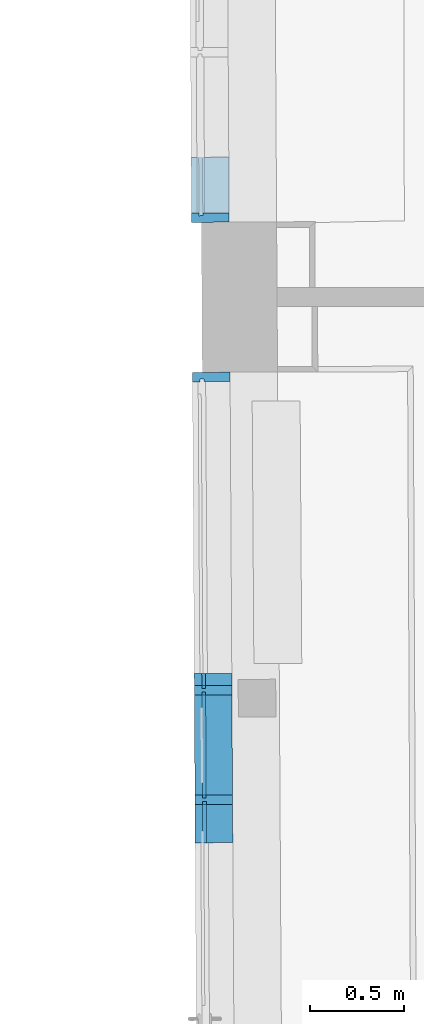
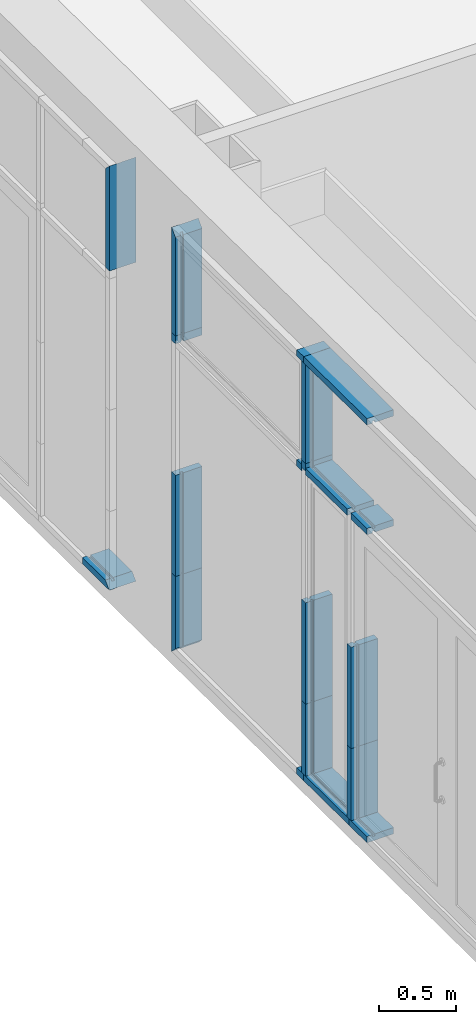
# One storey, part 152 of 196: 20 building element parts, 2 elements without a shape of their own.
"""IFC2X3 building model written with IfcOpenShell, lengths in metres."""

from ifc_helpers import new_model, entity, si_unit, converted_unit, derived_unit, money_unit, direction, frame, origin_with_axes, place, context, subcontext, project, spatial, faceted_brep, material, type_object, element, aggregate, save


model = new_model("IFC2X3")

# Units and contexts
model_context = context("Model", 3, precision=1e-05, world=origin_with_axes(), true_north=direction((0.0, 1.0)))
body_context = subcontext(model_context, "Body", "Model", "MODEL_VIEW")
ifc_project = project(units=[si_unit("LENGTHUNIT", "METRE"), si_unit("AREAUNIT", "SQUARE_METRE"), si_unit("VOLUMEUNIT", "CUBIC_METRE"), converted_unit("PLANEANGLEUNIT", "DEGREE", entity("IfcPlaneAngleMeasure", 0.0174532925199), si_unit("PLANEANGLEUNIT", "RADIAN"), dimensions=[0, 0, 0, 0, 0, 0, 0]), money_unit("EUR"), converted_unit("TIMEUNIT", "Year", entity("IfcTimeMeasure", 31556926.0), si_unit("TIMEUNIT", "SECOND"), dimensions=[0, 0, 1, 0, 0, 0, 0]), si_unit("MASSUNIT", "GRAM", prefix="KILO"), si_unit("THERMODYNAMICTEMPERATUREUNIT", "DEGREE_CELSIUS"), si_unit("LUMINOUSINTENSITYUNIT", "LUMEN"), si_unit("ENERGYUNIT", "JOULE", prefix="MEGA"), derived_unit("THERMALCONDUCTANCEUNIT", [(si_unit("POWERUNIT", "WATT"), 1), (si_unit("LENGTHUNIT", "METRE"), -1), (si_unit("THERMODYNAMICTEMPERATUREUNIT", "KELVIN"), -1)]), derived_unit("SPECIFICHEATCAPACITYUNIT", [(si_unit("ENERGYUNIT", "JOULE"), 1), (si_unit("MASSUNIT", "GRAM", prefix="KILO"), -1), (si_unit("THERMODYNAMICTEMPERATUREUNIT", "KELVIN"), -1)]), derived_unit("MASSDENSITYUNIT", [(si_unit("MASSUNIT", "GRAM", prefix="KILO"), 1), (si_unit("VOLUMEUNIT", "CUBIC_METRE"), -1)])], contexts=[model_context])

# Site, building, storey
site_placement = place(None, origin_with_axes())
site = spatial("IfcSite", under=ifc_project, at=site_placement, Name="Gelände", CompositionType="ELEMENT")
building_placement = place(site_placement, origin_with_axes())
building = spatial("IfcBuilding", under=site, at=building_placement, Name="Gebäude", CompositionType="ELEMENT")
storey_placement = place(building_placement, frame((0.0, 0.0, -3.0), z_axis=(0.0, 0.0, 1.0), x_axis=(1.0, 0.0, 0.0)))
storey = spatial("IfcBuildingStorey", under=building, at=storey_placement, Name="KELLERGESCHOSS", CompositionType="ELEMENT", Elevation=-3.0)

# Proxy, building element parts
building_element_proxy_type = type_object("IfcBuildingElementProxyType", Name="Fassadentyp", PredefinedType="NOTDEFINED")
proxy_1_placement = place(storey_placement, frame((-34.913387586, 47.2552574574, 0.421025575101), z_axis=(0.0, 0.0, 1.0), x_axis=(1.0, 0.0, 0.0)))
proxy_1 = element("IfcBuildingElementProxy", 1, at=proxy_1_placement, inside=storey, type_object=building_element_proxy_type, Name="Fassade-002")
ifc_material = material(Name="53_Metall, Aluminium")
building_element_part_1_placement = place(proxy_1_placement, origin_with_axes())
building_element_part_1 = element("IfcBuildingElementPart", 2, at=building_element_part_1_placement, material=ifc_material, Name="53_Metall, Aluminium", context=body_context, shape_type="Brep", body=[
    faceted_brep([(0.0204320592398, -1.77872243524, 0.0349999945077), (0.000432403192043, -1.77883972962, 0.0349999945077), (0.000344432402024, -1.76383998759, 0.0499999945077), (-0.0396548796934, -1.76407457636, 0.0499999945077), (-0.0393616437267, -1.81407371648, -5.49228174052e-09), (0.16063491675, -1.81290077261, -5.49228174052e-09), (0.160341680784, -1.76290163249, 0.0499999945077), (0.0203440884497, -1.7637226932, 0.0499999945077), (0.0186086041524, -1.46780837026, 0.0349999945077), (-0.00139105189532, -1.46792566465, 0.0349999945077), (-0.00139105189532, -1.46792566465, 0.0499999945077), (-0.0413903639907, -1.46816025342, 0.0499999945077), (-0.0413903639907, -1.46816025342, -5.49228174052e-09), (0.158606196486, -1.46698730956, -5.49228174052e-09), (0.158606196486, -1.46698730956, 0.0499999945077), (0.0186086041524, -1.46780837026, 0.0499999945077)], [[[0, 1, 2, 3, 4, 5, 6, 7]], [[1, 0, 8, 9]], [[10, 2, 1, 9]], [[2, 10, 11, 3]], [[12, 4, 3, 11]], [[13, 5, 4, 12]], [[14, 6, 5, 13]], [[15, 7, 6, 14]], [[0, 7, 15, 8]], [[8, 15, 14, 13, 12, 11, 10, 9]]]),
])
building_element_part_2_placement = place(proxy_1_placement, origin_with_axes())
building_element_part_2 = element("IfcBuildingElementPart", 3, at=building_element_part_2_placement, material=ifc_material, Name="53_Metall, Aluminium", context=body_context, shape_type="Brep", body=[
    faceted_brep([(0.0204320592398, -1.77872243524, 3.31499994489), (0.000432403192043, -1.77883972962, 3.31499994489), (0.000344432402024, -1.76383998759, 3.29999994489), (-0.0396548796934, -1.76407457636, 3.29999994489), (-0.0393616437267, -1.81407371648, 3.34999994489), (0.16063491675, -1.81290077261, 3.34999994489), (0.160341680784, -1.76290163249, 3.29999994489), (0.0203440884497, -1.7637226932, 3.29999994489), (0.0204320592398, -1.77872243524, 2.52000003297), (0.000432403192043, -1.77883972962, 2.52000003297), (0.000344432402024, -1.76383998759, 2.52000003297), (-0.0396548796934, -1.76407457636, 2.52000003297), (-0.0393616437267, -1.81407371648, 2.52000003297), (0.16063491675, -1.81290077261, 2.52000003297), (0.160341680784, -1.76290163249, 2.52000003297), (0.0203440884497, -1.7637226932, 2.52000003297)], [[[0, 1, 2, 3, 4, 5, 6, 7]], [[1, 0, 8, 9]], [[10, 2, 1, 9]], [[2, 10, 11, 3]], [[12, 4, 3, 11]], [[13, 5, 4, 12]], [[14, 6, 5, 13]], [[15, 7, 6, 14]], [[0, 7, 15, 8]], [[8, 15, 14, 13, 12, 11, 10, 9]]]),
])
aggregate(proxy_1, [building_element_part_1, building_element_part_2])

proxy_2_placement = place(storey_placement, frame((-34.8766751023, 40.9954775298, 0.421025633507), z_axis=(0.0, 0.0, 1.0), x_axis=(1.0, 0.0, 0.0)))
proxy_2 = element("IfcBuildingElementProxy", 4, at=proxy_2_placement, inside=storey, type_object=building_element_proxy_type, Name="Fassade-002")
building_element_part_3_placement = place(proxy_2_placement, origin_with_axes())
building_element_part_3 = element("IfcBuildingElementPart", 5, at=building_element_part_3_placement, material=ifc_material, Name="53_Metall, Aluminium", context=body_context, shape_type="Brep", body=[
    faceted_brep([(0.00179706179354, 1.39869764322, 2.44764331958), (0.00179706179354, 1.39869764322, 2.43264331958), (0.14179465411, 1.39951870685, 2.43264331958), (0.14179465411, 1.39951870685, 2.48264331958), (0.00179706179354, 1.39869764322, 2.48264331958), (0.00179706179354, 1.39869764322, 2.46764331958), (-0.0182025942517, 1.39858034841, 2.46764331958), (-0.0182025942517, 1.39858034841, 2.48264331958), (-0.0582019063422, 1.3983457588, 2.48264331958), (-0.0582019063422, 1.3983457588, 2.43264331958), (-0.0182025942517, 1.39858034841, 2.43264331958), (-0.0182025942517, 1.39858034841, 2.44764331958), (-0.00132408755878, 1.93087923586, 2.44764331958), (-0.00132408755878, 1.93087923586, 2.43264331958), (0.138673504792, 1.93170029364, 2.43264331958), (0.138673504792, 1.93170029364, 2.48264331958), (-0.00132408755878, 1.93087923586, 2.48264331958), (-0.00132408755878, 1.93087923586, 2.46764331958), (-0.0213237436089, 1.93076194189, 2.46764331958), (-0.0213237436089, 1.93076194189, 2.48264331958), (-0.0613230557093, 1.93052735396, 2.48264331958), (-0.0613230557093, 1.93052735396, 2.43264331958), (-0.0213237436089, 1.93076194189, 2.43264331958), (-0.0213237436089, 1.93076194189, 2.44764331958)], [[[0, 1, 2, 3, 4, 5, 6, 7, 8, 9, 10, 11]], [[1, 0, 12, 13]], [[1, 13, 14, 2]], [[2, 14, 15, 3]], [[4, 3, 15, 16]], [[4, 16, 17, 5]], [[5, 17, 18, 6]], [[7, 6, 18, 19]], [[19, 20, 8, 7]], [[8, 20, 21, 9]], [[22, 10, 9, 21]], [[11, 10, 22, 23]], [[0, 11, 23, 12]], [[23, 22, 21, 20, 19, 18, 17, 16, 15, 14, 13, 12]]]),
])
building_element_part_4_placement = place(proxy_2_placement, origin_with_axes())
building_element_part_4 = element("IfcBuildingElementPart", 6, at=building_element_part_4_placement, material=ifc_material, Name="53_Metall, Aluminium", context=body_context, shape_type="Brep", body=[
    faceted_brep([(0.00328616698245, 1.14479298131, 0.034999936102), (-0.0167134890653, 1.14467568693, 0.034999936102), (-0.0167134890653, 1.14467568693, 0.049999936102), (-0.0567128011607, 1.14444109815, 0.049999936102), (-0.0567128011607, 1.14444109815, -6.38979704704e-08), (0.143283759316, 1.14561404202, -6.38979704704e-08), (0.143283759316, 1.14561404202, 0.049999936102), (0.00328616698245, 1.14479298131, 0.049999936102), (0.00194367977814, 1.37369807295, 0.034999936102), (-0.0180559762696, 1.37358077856, 0.034999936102), (-0.0180559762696, 1.37358077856, 0.049999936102), (-0.058055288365, 1.37334618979, 0.049999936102), (-0.058055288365, 1.37334618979, -6.38979704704e-08), (0.141941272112, 1.37451913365, -6.38979704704e-08), (0.141941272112, 1.37451913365, 0.049999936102), (0.00194367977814, 1.37369807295, 0.049999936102)], [[[0, 1, 2, 3, 4, 5, 6, 7]], [[1, 0, 8, 9]], [[10, 2, 1, 9]], [[2, 10, 11, 3]], [[12, 4, 3, 11]], [[13, 5, 4, 12]], [[14, 6, 5, 13]], [[15, 7, 6, 14]], [[0, 7, 15, 8]], [[8, 15, 14, 13, 12, 11, 10, 9]]]),
])
building_element_part_5_placement = place(proxy_2_placement, origin_with_axes())
building_element_part_5 = element("IfcBuildingElementPart", 7, at=building_element_part_5_placement, material=ifc_material, Name="53_Metall, Aluminium", context=body_context, shape_type="Brep", body=[
    faceted_brep([(0.00200232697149, 1.36369824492, 1.41999997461), (0.00209029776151, 1.34869850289, 1.41999997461), (0.142087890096, 1.34951956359, 1.41999997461), (0.141794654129, 1.39951870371, 1.41999997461), (0.00179706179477, 1.39869764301, 1.41999997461), (0.00188503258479, 1.38369790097, 1.41999997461), (-0.0181146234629, 1.38358060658, 1.41999997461), (-0.0182025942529, 1.39858034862, 1.41999997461), (-0.0582019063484, 1.39834575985, 1.41999997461), (-0.0579086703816, 1.34834661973, 1.41999997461), (-0.0179093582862, 1.3485812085, 1.41999997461), (-0.0179973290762, 1.36358095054, 1.41999997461), (0.00200232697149, 1.36369824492, 0.619999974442), (0.00209029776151, 1.34869850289, 0.619999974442), (0.142087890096, 1.34951956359, 0.619999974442), (0.141794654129, 1.39951870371, 0.619999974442), (0.00179706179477, 1.39869764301, 0.619999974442), (0.00188503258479, 1.38369790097, 0.619999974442), (-0.0181146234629, 1.38358060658, 0.619999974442), (-0.0182025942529, 1.39858034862, 0.619999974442), (-0.0582019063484, 1.39834575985, 0.619999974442), (-0.0579086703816, 1.34834661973, 0.619999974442), (-0.0179093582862, 1.3485812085, 0.619999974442), (-0.0179973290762, 1.36358095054, 0.619999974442)], [[[0, 1, 2, 3, 4, 5, 6, 7, 8, 9, 10, 11]], [[1, 0, 12, 13]], [[1, 13, 14, 2]], [[3, 2, 14, 15]], [[4, 3, 15, 16]], [[4, 16, 17, 5]], [[5, 17, 18, 6]], [[7, 6, 18, 19]], [[19, 20, 8, 7]], [[9, 8, 20, 21]], [[22, 10, 9, 21]], [[11, 10, 22, 23]], [[0, 11, 23, 12]], [[23, 22, 21, 20, 19, 18, 17, 16, 15, 14, 13, 12]]]),
])
building_element_part_6_placement = place(proxy_2_placement, origin_with_axes())
building_element_part_6 = element("IfcBuildingElementPart", 8, at=building_element_part_6_placement, material=ifc_material, Name="53_Metall, Aluminium", context=body_context, shape_type="Brep", body=[
    faceted_brep([(0.00188503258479, 1.38369790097, 0.0499999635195), (0.00179706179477, 1.39869764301, 0.0499999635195), (0.141794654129, 1.39951870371, 0.0499999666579), (0.142087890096, 1.34951956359, 0.0499999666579), (0.00209029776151, 1.34869850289, 0.0499999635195), (0.00200232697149, 1.36369824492, 0.0499999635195), (-0.0179973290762, 1.36358095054, 0.0499999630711), (-0.0179093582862, 1.3485812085, 0.0499999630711), (-0.0579086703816, 1.34834661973, 0.0499999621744), (-0.0582019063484, 1.39834575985, 0.0499999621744), (-0.0182025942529, 1.39858034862, 0.0499999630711), (-0.0181146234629, 1.38358060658, 0.0499999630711), (0.00188503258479, 1.38369790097, 0.619999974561), (0.00179706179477, 1.39869764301, 0.619999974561), (0.141794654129, 1.39951870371, 0.619999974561), (0.142087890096, 1.34951956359, 0.619999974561), (0.00209029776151, 1.34869850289, 0.619999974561), (0.00200232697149, 1.36369824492, 0.619999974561), (-0.0179973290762, 1.36358095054, 0.619999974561), (-0.0179093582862, 1.3485812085, 0.619999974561), (-0.0579086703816, 1.34834661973, 0.619999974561), (-0.0582019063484, 1.39834575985, 0.619999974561), (-0.0182025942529, 1.39858034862, 0.619999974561), (-0.0181146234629, 1.38358060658, 0.619999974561)], [[[0, 1, 2, 3, 4, 5, 6, 7, 8, 9, 10, 11]], [[1, 0, 12, 13]], [[1, 13, 14, 2]], [[3, 2, 14, 15]], [[4, 3, 15, 16]], [[4, 16, 17, 5]], [[5, 17, 18, 6]], [[7, 6, 18, 19]], [[19, 20, 8, 7]], [[9, 8, 20, 21]], [[22, 10, 9, 21]], [[11, 10, 22, 23]], [[0, 11, 23, 12]], [[23, 22, 21, 20, 19, 18, 17, 16, 15, 14, 13, 12]]]),
])
building_element_part_7_placement = place(proxy_2_placement, origin_with_axes())
building_element_part_7 = element("IfcBuildingElementPart", 9, at=building_element_part_7_placement, material=ifc_material, Name="53_Metall, Aluminium", context=body_context, shape_type="Brep", body=[
    faceted_brep([(-0.00147070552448, 1.95587880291, 3.314999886), (-0.00147070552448, 1.95587880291, 3.299999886), (0.13852688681, 1.95669986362, 3.299999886), (0.13852688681, 1.95669986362, 3.349999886), (-0.0614696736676, 1.95552691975, 3.349999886), (-0.0614696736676, 1.95552691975, 3.299999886), (-0.0214703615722, 1.95576150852, 3.299999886), (-0.0214703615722, 1.95576150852, 3.314999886), (-0.00199208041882, 2.04477750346, 3.314999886), (-0.00199208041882, 2.04477750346, 3.299999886), (0.138005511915, 2.04559856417, 3.299999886), (0.138005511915, 2.04559856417, 3.349999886), (-0.061991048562, 2.0444256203, 3.349999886), (-0.061991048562, 2.0444256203, 3.299999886), (-0.0219917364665, 2.04466020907, 3.299999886), (-0.0219917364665, 2.04466020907, 3.314999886)], [[[0, 1, 2, 3, 4, 5, 6, 7]], [[0, 8, 9, 1]], [[9, 10, 2, 1]], [[10, 11, 3, 2]], [[11, 12, 4, 3]], [[12, 13, 5, 4]], [[6, 5, 13, 14]], [[14, 15, 7, 6]], [[7, 15, 8, 0]], [[8, 15, 14, 13, 12, 11, 10, 9]]]),
])
building_element_part_8_placement = place(proxy_2_placement, origin_with_axes())
building_element_part_8 = element("IfcBuildingElementPart", 10, at=building_element_part_8_placement, material=ifc_material, Name="53_Metall, Aluminium", context=body_context, shape_type="Brep", body=[
    faceted_brep([(0.00328616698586, 1.14479298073, 2.44764333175), (0.00328616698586, 1.14479298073, 2.43264333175), (0.14328375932, 1.14561404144, 2.43264333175), (0.14328375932, 1.14561404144, 2.48264333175), (0.00328616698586, 1.14479298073, 2.48264333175), (0.00328616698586, 1.14479298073, 2.46764333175), (-0.0167134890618, 1.14467568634, 2.46764333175), (-0.0167134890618, 1.14467568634, 2.48264333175), (-0.0567128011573, 1.14444109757, 2.48264333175), (-0.0567128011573, 1.14444109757, 2.43264333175), (-0.0167134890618, 1.14467568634, 2.43264333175), (-0.0167134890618, 1.14467568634, 2.44764333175), (0.00209029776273, 1.34869850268, 2.44764333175), (0.00209029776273, 1.34869850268, 2.43264333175), (0.142087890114, 1.34951956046, 2.43264333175), (0.142087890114, 1.34951956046, 2.48264333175), (0.00209029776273, 1.34869850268, 2.48264333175), (0.00209029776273, 1.34869850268, 2.46764333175), (-0.0179093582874, 1.34858120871, 2.46764333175), (-0.0179093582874, 1.34858120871, 2.48264333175), (-0.0579086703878, 1.34834662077, 2.48264333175), (-0.0579086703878, 1.34834662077, 2.43264333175), (-0.0179093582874, 1.34858120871, 2.43264333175), (-0.0179093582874, 1.34858120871, 2.44764333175)], [[[0, 1, 2, 3, 4, 5, 6, 7, 8, 9, 10, 11]], [[1, 0, 12, 13]], [[1, 13, 14, 2]], [[2, 14, 15, 3]], [[4, 3, 15, 16]], [[4, 16, 17, 5]], [[5, 17, 18, 6]], [[7, 6, 18, 19]], [[19, 20, 8, 7]], [[8, 20, 21, 9]], [[22, 10, 9, 21]], [[11, 10, 22, 23]], [[0, 11, 23, 12]], [[23, 22, 21, 20, 19, 18, 17, 16, 15, 14, 13, 12]]]),
])
building_element_part_9_placement = place(proxy_2_placement, origin_with_axes())
building_element_part_9 = element("IfcBuildingElementPart", 11, at=building_element_part_9_placement, material=ifc_material, Name="53_Metall, Aluminium", context=body_context, shape_type="Brep", body=[
    faceted_brep([(-0.00141205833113, 1.94587897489, 3.29999988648), (-0.00132408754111, 1.93087923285, 3.29999988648), (0.138673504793, 1.93170029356, 3.29999988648), (0.138380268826, 1.98169943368, 3.29999988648), (-0.00161732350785, 1.98087837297, 3.29999988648), (-0.00152935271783, 1.96587863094, 3.29999988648), (-0.0215290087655, 1.96576133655, 3.29999988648), (-0.0216169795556, 1.98076107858, 3.29999988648), (-0.061616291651, 1.98052648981, 3.29999988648), (-0.0613230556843, 1.93052734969, 3.29999988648), (-0.0213237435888, 1.93076193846, 3.29999988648), (-0.0214117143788, 1.9457616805, 3.29999988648), (-0.00141205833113, 1.94587897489, 2.51999997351), (-0.00132408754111, 1.93087923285, 2.51999997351), (0.138673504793, 1.93170029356, 2.51999997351), (0.138380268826, 1.98169943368, 2.51999997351), (-0.00161732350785, 1.98087837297, 2.51999997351), (-0.00152935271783, 1.96587863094, 2.51999997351), (-0.0215290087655, 1.96576133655, 2.51999997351), (-0.0216169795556, 1.98076107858, 2.51999997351), (-0.061616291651, 1.98052648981, 2.51999997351), (-0.0613230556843, 1.93052734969, 2.51999997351), (-0.0213237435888, 1.93076193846, 2.51999997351), (-0.0214117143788, 1.9457616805, 2.51999997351)], [[[0, 1, 2, 3, 4, 5, 6, 7, 8, 9, 10, 11]], [[1, 0, 12, 13]], [[1, 13, 14, 2]], [[3, 2, 14, 15]], [[4, 3, 15, 16]], [[4, 16, 17, 5]], [[5, 17, 18, 6]], [[7, 6, 18, 19]], [[19, 20, 8, 7]], [[9, 8, 20, 21]], [[22, 10, 9, 21]], [[11, 10, 22, 23]], [[0, 11, 23, 12]], [[23, 22, 21, 20, 19, 18, 17, 16, 15, 14, 13, 12]]]),
])
building_element_part_10_placement = place(proxy_2_placement, origin_with_axes())
building_element_part_10 = element("IfcBuildingElementPart", 12, at=building_element_part_10_placement, material=ifc_material, Name="53_Metall, Aluminium", context=body_context, shape_type="Brep", body=[
    faceted_brep([(-0.00141205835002, 1.94587897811, 1.41999997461), (-0.00132408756, 1.93087923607, 1.41999997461), (0.138673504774, 1.93170029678, 1.41999997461), (0.138380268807, 1.9816994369, 1.41999997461), (-0.00161732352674, 1.98087837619, 1.41999997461), (-0.00152935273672, 1.96587863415, 1.41999997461), (-0.0215290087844, 1.96576133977, 1.41999997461), (-0.0216169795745, 1.9807610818, 1.41999997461), (-0.0616162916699, 1.98052649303, 1.41999997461), (-0.0613230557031, 1.93052735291, 1.41999997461), (-0.0213237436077, 1.93076194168, 1.41999997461), (-0.0214117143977, 1.94576168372, 1.41999997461), (-0.00141205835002, 1.94587897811, 0.619999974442), (-0.00132408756, 1.93087923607, 0.619999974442), (0.138673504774, 1.93170029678, 0.619999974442), (0.138380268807, 1.9816994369, 0.619999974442), (-0.00161732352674, 1.98087837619, 0.619999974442), (-0.00152935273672, 1.96587863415, 0.619999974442), (-0.0215290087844, 1.96576133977, 0.619999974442), (-0.0216169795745, 1.9807610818, 0.619999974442), (-0.0616162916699, 1.98052649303, 0.619999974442), (-0.0613230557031, 1.93052735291, 0.619999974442), (-0.0213237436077, 1.93076194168, 0.619999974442), (-0.0214117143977, 1.94576168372, 0.619999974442)], [[[0, 1, 2, 3, 4, 5, 6, 7, 8, 9, 10, 11]], [[1, 0, 12, 13]], [[1, 13, 14, 2]], [[3, 2, 14, 15]], [[4, 3, 15, 16]], [[4, 16, 17, 5]], [[5, 17, 18, 6]], [[7, 6, 18, 19]], [[19, 20, 8, 7]], [[9, 8, 20, 21]], [[22, 10, 9, 21]], [[11, 10, 22, 23]], [[0, 11, 23, 12]], [[23, 22, 21, 20, 19, 18, 17, 16, 15, 14, 13, 12]]]),
])
building_element_part_11_placement = place(proxy_2_placement, origin_with_axes())
building_element_part_11 = element("IfcBuildingElementPart", 13, at=building_element_part_11_placement, material=ifc_material, Name="53_Metall, Aluminium", context=body_context, shape_type="Brep", body=[
    faceted_brep([(-0.00141205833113, 1.94587897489, 0.619999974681), (-0.00132408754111, 1.93087923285, 0.619999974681), (0.138673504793, 1.93170029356, 0.619999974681), (0.138380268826, 1.98169943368, 0.619999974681), (-0.00161732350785, 1.98087837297, 0.619999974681), (-0.00152935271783, 1.96587863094, 0.619999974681), (-0.0215290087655, 1.96576133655, 0.619999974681), (-0.0216169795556, 1.98076107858, 0.619999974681), (-0.061616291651, 1.98052648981, 0.619999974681), (-0.0613230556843, 1.93052734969, 0.619999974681), (-0.0213237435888, 1.93076193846, 0.619999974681), (-0.0214117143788, 1.9457616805, 0.619999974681), (-0.00141205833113, 1.94587897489, 0.0499999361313), (-0.00132408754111, 1.93087923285, 0.0499999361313), (0.138673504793, 1.93170029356, 0.0499999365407), (0.138380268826, 1.98169943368, 0.0499999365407), (-0.00161732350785, 1.98087837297, 0.0499999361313), (-0.00152935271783, 1.96587863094, 0.0499999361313), (-0.0215290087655, 1.96576133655, 0.0499999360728), (-0.0216169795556, 1.98076107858, 0.0499999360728), (-0.061616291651, 1.98052648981, 0.0499999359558), (-0.0613230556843, 1.93052734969, 0.0499999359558), (-0.0213237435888, 1.93076193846, 0.0499999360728), (-0.0214117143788, 1.9457616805, 0.0499999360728)], [[[0, 1, 2, 3, 4, 5, 6, 7, 8, 9, 10, 11]], [[1, 0, 12, 13]], [[1, 13, 14, 2]], [[2, 14, 15, 3]], [[4, 3, 15, 16]], [[4, 16, 17, 5]], [[5, 17, 18, 6]], [[7, 6, 18, 19]], [[19, 20, 8, 7]], [[8, 20, 21, 9]], [[22, 10, 9, 21]], [[11, 10, 22, 23]], [[0, 11, 23, 12]], [[23, 22, 21, 20, 19, 18, 17, 16, 15, 14, 13, 12]]]),
])
building_element_part_12_placement = place(proxy_2_placement, origin_with_axes())
building_element_part_12 = element("IfcBuildingElementPart", 14, at=building_element_part_12_placement, material=ifc_material, Name="53_Metall, Aluminium", context=body_context, shape_type="Brep", body=[
    faceted_brep([(-0.00147070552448, 1.95587880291, 0.034999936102), (-0.0214703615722, 1.95576150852, 0.034999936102), (-0.0214703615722, 1.95576150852, 0.049999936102), (-0.0614696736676, 1.95552691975, 0.049999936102), (-0.0614696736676, 1.95552691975, -6.38979709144e-08), (0.13852688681, 1.95669986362, -6.38979709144e-08), (0.13852688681, 1.95669986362, 0.049999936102), (-0.00147070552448, 1.95587880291, 0.049999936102), (-0.00199208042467, 2.04477750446, 0.034999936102), (-0.0219917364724, 2.04466021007, 0.034999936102), (-0.0219917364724, 2.04466021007, 0.049999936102), (-0.0619910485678, 2.0444256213, 0.049999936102), (-0.0619910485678, 2.0444256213, -6.38979709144e-08), (0.138005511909, 2.04559856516, -6.38979709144e-08), (0.138005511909, 2.04559856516, 0.049999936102), (-0.00199208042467, 2.04477750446, 0.049999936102)], [[[0, 1, 2, 3, 4, 5, 6, 7]], [[1, 0, 8, 9]], [[10, 2, 1, 9]], [[2, 10, 11, 3]], [[12, 4, 3, 11]], [[13, 5, 4, 12]], [[14, 6, 5, 13]], [[15, 7, 6, 14]], [[0, 7, 15, 8]], [[8, 15, 14, 13, 12, 11, 10, 9]]]),
])
building_element_part_13_placement = place(proxy_2_placement, origin_with_axes())
building_element_part_13 = element("IfcBuildingElementPart", 15, at=building_element_part_13_placement, material=ifc_material, Name="53_Metall, Aluminium", context=body_context, shape_type="Brep", body=[
    faceted_brep([(-0.0111883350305, 3.61281442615, 1.41999997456), (-0.0111003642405, 3.59781468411, 1.41999997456), (0.128897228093, 3.59863574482, 1.41999997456), (0.128603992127, 3.64863488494, 1.41999997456), (-0.0713925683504, 3.64746194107, 1.41999997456), (-0.0710993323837, 3.59746280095, 1.41999997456), (-0.0311000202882, 3.59769738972, 1.41999997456), (-0.0311879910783, 3.61269713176, 1.41999997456), (-0.0111883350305, 3.61281442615, 0.619999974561), (-0.0111003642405, 3.59781468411, 0.619999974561), (0.128897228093, 3.59863574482, 0.619999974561), (0.128603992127, 3.64863488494, 0.619999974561), (-0.0713925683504, 3.64746194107, 0.619999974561), (-0.0710993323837, 3.59746280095, 0.619999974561), (-0.0311000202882, 3.59769738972, 0.619999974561), (-0.0311879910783, 3.61269713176, 0.619999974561)], [[[0, 1, 2, 3, 4, 5, 6, 7]], [[0, 8, 9, 1]], [[9, 10, 2, 1]], [[10, 11, 3, 2]], [[11, 12, 4, 3]], [[12, 13, 5, 4]], [[6, 5, 13, 14]], [[14, 15, 7, 6]], [[7, 15, 8, 0]], [[8, 15, 14, 13, 12, 11, 10, 9]]]),
])
building_element_part_14_placement = place(proxy_2_placement, origin_with_axes())
building_element_part_14 = element("IfcBuildingElementPart", 16, at=building_element_part_14_placement, material=ifc_material, Name="53_Metall, Aluminium", context=body_context, shape_type="Brep", body=[
    faceted_brep([(-0.0111883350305, 3.61281442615, 2.51999998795), (-0.0111003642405, 3.59781468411, 2.51999998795), (0.128897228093, 3.59863574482, 2.51999998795), (0.128603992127, 3.64863488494, 2.51999998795), (-0.0713925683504, 3.64746194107, 2.51999998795), (-0.0710993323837, 3.59746280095, 2.51999998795), (-0.0311000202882, 3.59769738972, 2.51999998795), (-0.0311879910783, 3.61269713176, 2.51999998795), (-0.0111883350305, 3.61281442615, 2.45764333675), (-0.0111003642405, 3.59781468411, 2.45764333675), (0.128897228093, 3.59863574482, 2.45764333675), (0.128603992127, 3.64863488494, 2.45764333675), (-0.0713925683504, 3.64746194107, 2.45764333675), (-0.0710993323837, 3.59746280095, 2.45764333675), (-0.0311000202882, 3.59769738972, 2.45764333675), (-0.0311879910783, 3.61269713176, 2.45764333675)], [[[0, 1, 2, 3, 4, 5, 6, 7]], [[0, 8, 9, 1]], [[9, 10, 2, 1]], [[10, 11, 3, 2]], [[11, 12, 4, 3]], [[12, 13, 5, 4]], [[6, 5, 13, 14]], [[14, 15, 7, 6]], [[7, 15, 8, 0]], [[8, 15, 14, 13, 12, 11, 10, 9]]]),
])
building_element_part_15_placement = place(proxy_2_placement, origin_with_axes())
building_element_part_15 = element("IfcBuildingElementPart", 17, at=building_element_part_15_placement, material=ifc_material, Name="53_Metall, Aluminium", context=body_context, shape_type="Brep", body=[
    faceted_brep([(-0.0111883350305, 3.61281442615, 3.31499988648), (-0.0111003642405, 3.59781468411, 3.29999988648), (0.128897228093, 3.59863574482, 3.29999988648), (0.128603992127, 3.64863488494, 3.34999988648), (-0.0713925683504, 3.64746194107, 3.34999988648), (-0.0710993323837, 3.59746280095, 3.29999988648), (-0.0311000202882, 3.59769738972, 3.29999988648), (-0.0311879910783, 3.61269713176, 3.31499988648), (-0.0111883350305, 3.61281442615, 2.51999997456), (-0.0111003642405, 3.59781468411, 2.51999997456), (0.128897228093, 3.59863574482, 2.51999997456), (0.128603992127, 3.64863488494, 2.51999997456), (-0.0713925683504, 3.64746194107, 2.51999997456), (-0.0710993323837, 3.59746280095, 2.51999997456), (-0.0311000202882, 3.59769738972, 2.51999997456), (-0.0311879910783, 3.61269713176, 2.51999997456)], [[[0, 1, 2, 3, 4, 5, 6, 7]], [[0, 8, 9, 1]], [[9, 10, 2, 1]], [[10, 11, 3, 2]], [[11, 12, 4, 3]], [[12, 13, 5, 4]], [[6, 5, 13, 14]], [[14, 15, 7, 6]], [[7, 15, 8, 0]], [[8, 15, 14, 13, 12, 11, 10, 9]]]),
])
building_element_part_16_placement = place(proxy_2_placement, origin_with_axes())
building_element_part_16 = element("IfcBuildingElementPart", 18, at=building_element_part_16_placement, material=ifc_material, Name="53_Metall, Aluminium", context=body_context, shape_type="Brep", body=[
    faceted_brep([(0.00328616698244, 1.14479298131, 3.314999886), (0.00328616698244, 1.14479298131, 3.299999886), (0.143283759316, 1.14561404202, 3.299999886), (0.143283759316, 1.14561404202, 3.349999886), (-0.0567128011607, 1.14444109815, 3.349999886), (-0.0567128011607, 1.14444109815, 3.299999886), (-0.0167134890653, 1.14467568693, 3.299999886), (-0.0167134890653, 1.14467568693, 3.314999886), (-0.00147070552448, 1.95587880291, 3.314999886), (-0.00147070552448, 1.95587880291, 3.299999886), (0.13852688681, 1.95669986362, 3.299999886), (0.13852688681, 1.95669986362, 3.349999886), (-0.0614696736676, 1.95552691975, 3.349999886), (-0.0614696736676, 1.95552691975, 3.299999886), (-0.0214703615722, 1.95576150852, 3.299999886), (-0.0214703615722, 1.95576150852, 3.314999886)], [[[0, 1, 2, 3, 4, 5, 6, 7]], [[0, 8, 9, 1]], [[9, 10, 2, 1]], [[10, 11, 3, 2]], [[11, 12, 4, 3]], [[12, 13, 5, 4]], [[6, 5, 13, 14]], [[14, 15, 7, 6]], [[7, 15, 8, 0]], [[8, 15, 14, 13, 12, 11, 10, 9]]]),
])
building_element_part_17_placement = place(proxy_2_placement, origin_with_axes())
building_element_part_17 = element("IfcBuildingElementPart", 19, at=building_element_part_17_placement, material=ifc_material, Name="53_Metall, Aluminium", context=body_context, shape_type="Brep", body=[
    faceted_brep([(-0.00161732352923, 1.98087837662, 2.44764332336), (-0.00161732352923, 1.98087837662, 2.43264332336), (0.13838026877, 1.98169944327, 2.43264332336), (0.13838026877, 1.98169944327, 2.48264332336), (-0.00161732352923, 1.98087837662, 2.48264332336), (-0.00161732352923, 1.98087837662, 2.46764332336), (-0.021616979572, 1.98076108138, 2.46764332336), (-0.021616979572, 1.98076108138, 2.48264332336), (-0.0616162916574, 1.98052649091, 2.48264332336), (-0.0616162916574, 1.98052649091, 2.43264332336), (-0.021616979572, 1.98076108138, 2.43264332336), (-0.021616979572, 1.98076108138, 2.44764332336), (-0.00199208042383, 2.04477750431, 2.44764332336), (-0.00199208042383, 2.04477750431, 2.43264332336), (0.13800551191, 2.04559856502, 2.43264332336), (0.13800551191, 2.04559856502, 2.48264332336), (-0.00199208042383, 2.04477750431, 2.48264332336), (-0.00199208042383, 2.04477750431, 2.46764332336), (-0.0219917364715, 2.04466020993, 2.46764332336), (-0.0219917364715, 2.04466020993, 2.48264332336), (-0.061991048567, 2.04442562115, 2.48264332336), (-0.061991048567, 2.04442562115, 2.43264332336), (-0.0219917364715, 2.04466020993, 2.43264332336), (-0.0219917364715, 2.04466020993, 2.44764332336)], [[[0, 1, 2, 3, 4, 5, 6, 7, 8, 9, 10, 11]], [[1, 0, 12, 13]], [[1, 13, 14, 2]], [[3, 2, 14, 15]], [[4, 3, 15, 16]], [[4, 16, 17, 5]], [[5, 17, 18, 6]], [[7, 6, 18, 19]], [[19, 20, 8, 7]], [[9, 8, 20, 21]], [[22, 10, 9, 21]], [[11, 10, 22, 23]], [[0, 11, 23, 12]], [[23, 22, 21, 20, 19, 18, 17, 16, 15, 14, 13, 12]]]),
])
building_element_part_18_placement = place(proxy_2_placement, origin_with_axes())
building_element_part_18 = element("IfcBuildingElementPart", 20, at=building_element_part_18_placement, material=ifc_material, Name="53_Metall, Aluminium", context=body_context, shape_type="Brep", body=[
    faceted_brep([(-0.00141205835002, 1.94587897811, 2.51999998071), (-0.00132408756, 1.93087923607, 2.51999998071), (0.138673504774, 1.93170029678, 2.51999998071), (0.138380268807, 1.9816994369, 2.51999998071), (-0.00161732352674, 1.98087837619, 2.51999998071), (-0.00152935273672, 1.96587863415, 2.51999998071), (-0.0215290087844, 1.96576133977, 2.51999998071), (-0.0216169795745, 1.9807610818, 2.51999998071), (-0.0616162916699, 1.98052649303, 2.51999998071), (-0.0613230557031, 1.93052735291, 2.51999998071), (-0.0213237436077, 1.93076194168, 2.51999998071), (-0.0214117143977, 1.94576168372, 2.51999998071), (-0.00141205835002, 1.94587897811, 2.45764331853), (-0.00132408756, 1.93087923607, 2.45764331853), (0.138673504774, 1.93170029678, 2.45764331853), (0.138380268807, 1.9816994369, 2.45764331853), (-0.00161732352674, 1.98087837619, 2.45764331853), (-0.00152935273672, 1.96587863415, 2.45764331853), (-0.0215290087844, 1.96576133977, 2.45764331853), (-0.0216169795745, 1.9807610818, 2.45764331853), (-0.0616162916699, 1.98052649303, 2.45764331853), (-0.0613230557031, 1.93052735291, 2.45764331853), (-0.0213237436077, 1.93076194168, 2.45764331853), (-0.0214117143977, 1.94576168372, 2.45764331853)], [[[0, 1, 2, 3, 4, 5, 6, 7, 8, 9, 10, 11]], [[1, 0, 12, 13]], [[1, 13, 14, 2]], [[3, 2, 14, 15]], [[4, 3, 15, 16]], [[4, 16, 17, 5]], [[5, 17, 18, 6]], [[7, 6, 18, 19]], [[19, 20, 8, 7]], [[9, 8, 20, 21]], [[22, 10, 9, 21]], [[11, 10, 22, 23]], [[0, 11, 23, 12]], [[23, 22, 21, 20, 19, 18, 17, 16, 15, 14, 13, 12]]]),
])
building_element_part_19_placement = place(proxy_2_placement, origin_with_axes())
building_element_part_19 = element("IfcBuildingElementPart", 21, at=building_element_part_19_placement, material=ifc_material, Name="53_Metall, Aluminium", context=body_context, shape_type="Brep", body=[
    faceted_brep([(-0.0111883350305, 3.61281442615, 0.620000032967), (-0.0111003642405, 3.59781468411, 0.620000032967), (0.128897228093, 3.59863574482, 0.620000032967), (0.128603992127, 3.64863488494, 0.620000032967), (-0.0713925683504, 3.64746194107, 0.620000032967), (-0.0710993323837, 3.59746280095, 0.620000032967), (-0.0311000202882, 3.59769738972, 0.620000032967), (-0.0311879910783, 3.61269713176, 0.620000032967), (-0.0111883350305, 3.61281442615, 0.0349999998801), (-0.0111003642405, 3.59781468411, 0.0499999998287), (0.128897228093, 3.59863574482, 0.0499999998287), (0.128603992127, 3.64863488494, 0.0), (-0.0713925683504, 3.64746194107, 0.0), (-0.0710993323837, 3.59746280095, 0.0499999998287), (-0.0311000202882, 3.59769738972, 0.0499999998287), (-0.0311879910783, 3.61269713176, 0.0349999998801)], [[[0, 1, 2, 3, 4, 5, 6, 7]], [[0, 8, 9, 1]], [[9, 10, 2, 1]], [[2, 10, 11, 3]], [[3, 11, 12, 4]], [[4, 12, 13, 5]], [[6, 5, 13, 14]], [[14, 15, 7, 6]], [[7, 15, 8, 0]], [[8, 15, 14, 13, 12, 11, 10, 9]]]),
])
building_element_part_20_placement = place(proxy_2_placement, origin_with_axes())
building_element_part_20 = element("IfcBuildingElementPart", 22, at=building_element_part_20_placement, material=ifc_material, Name="53_Metall, Aluminium", context=body_context, shape_type="Brep", body=[
    faceted_brep([(0.00194367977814, 1.37369807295, 0.034999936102), (-0.0180559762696, 1.37358077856, 0.034999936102), (-0.0180559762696, 1.37358077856, 0.049999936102), (-0.058055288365, 1.37334618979, 0.049999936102), (-0.058055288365, 1.37334618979, -6.38979709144e-08), (0.141941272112, 1.37451913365, -6.38979709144e-08), (0.141941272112, 1.37451913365, 0.049999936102), (0.00194367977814, 1.37369807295, 0.049999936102), (-0.00147070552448, 1.95587880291, 0.034999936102), (-0.0214703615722, 1.95576150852, 0.034999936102), (-0.0214703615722, 1.95576150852, 0.049999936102), (-0.0614696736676, 1.95552691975, 0.049999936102), (-0.0614696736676, 1.95552691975, -6.38979709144e-08), (0.13852688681, 1.95669986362, -6.38979709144e-08), (0.13852688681, 1.95669986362, 0.049999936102), (-0.00147070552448, 1.95587880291, 0.049999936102)], [[[0, 1, 2, 3, 4, 5, 6, 7]], [[1, 0, 8, 9]], [[10, 2, 1, 9]], [[2, 10, 11, 3]], [[12, 4, 3, 11]], [[13, 5, 4, 12]], [[14, 6, 5, 13]], [[15, 7, 6, 14]], [[0, 7, 15, 8]], [[8, 15, 14, 13, 12, 11, 10, 9]]]),
])
aggregate(proxy_2, [building_element_part_3, building_element_part_4, building_element_part_5, building_element_part_6, building_element_part_7, building_element_part_8, building_element_part_9, building_element_part_10, building_element_part_11, building_element_part_12, building_element_part_13, building_element_part_14, building_element_part_15, building_element_part_16, building_element_part_17, building_element_part_18, building_element_part_19, building_element_part_20])

save(model, "model.ifc")
